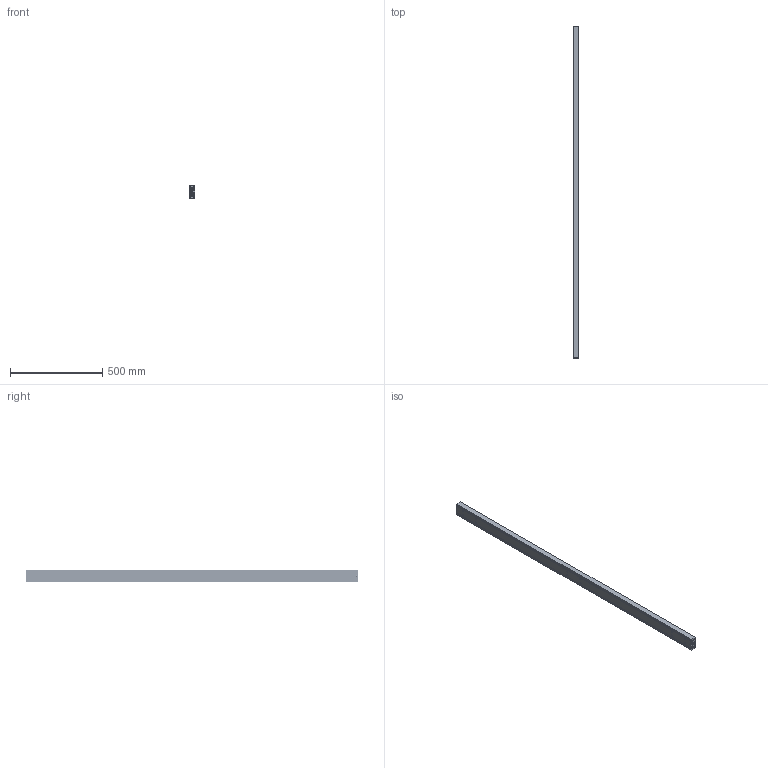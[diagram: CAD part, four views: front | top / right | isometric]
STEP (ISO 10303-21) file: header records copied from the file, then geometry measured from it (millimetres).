
FILE_DESCRIPTION(/* description */ (''),/* implementation_level */ '2;1');
FILE_NAME(/* name */ 'D:\Zeichnungen Schienen Komplett\MX-DTP70\MX-DTP70.180\MX-DTP70.180_eingefahren.step',/* time_stamp */ '2022-08-31T08:18:39+02:00',/* author */ ('zmile'),/* organization */ (''),/* preprocessor_version */ 'ST-DEVELOPER v16.13',/* originating_system */ 'AutoCAD Mechanical',/* authorisation */ '');
FILE_SCHEMA (('AUTOMOTIVE_DESIGN { 1 0 10303 214 3 1 1 }'));
Products named in the file (1): Product
Bounding box: 32 x 1800 x 70 mm (x, y, z)
Volume: 3200573.4 mm3; surface area: 1132915.6 mm2
Topology: 123 solids, 123 shells, 450 faces, 1288 edges, 856 vertices
Faces by surface type: cylinder 156, sphere 116, plane 86, bspline 86, torus 6
Full cylindrical faces by diameter (mm): 9 x116, 13 x2
Entity records: 196577 total; most frequent: CARTESIAN_POINT 186143, ORIENTED_EDGE 1860, DIRECTION 1822, EDGE_CURVE 930, EDGE_LOOP 862, VERTEX_POINT 854, AXIS2_PLACEMENT_3D 805, FACE_OUTER_BOUND 450
